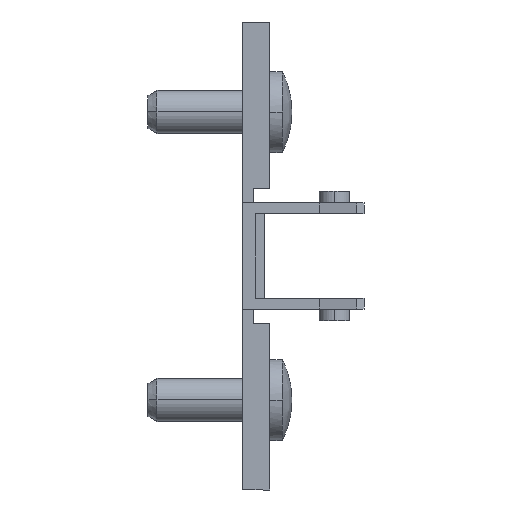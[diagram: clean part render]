
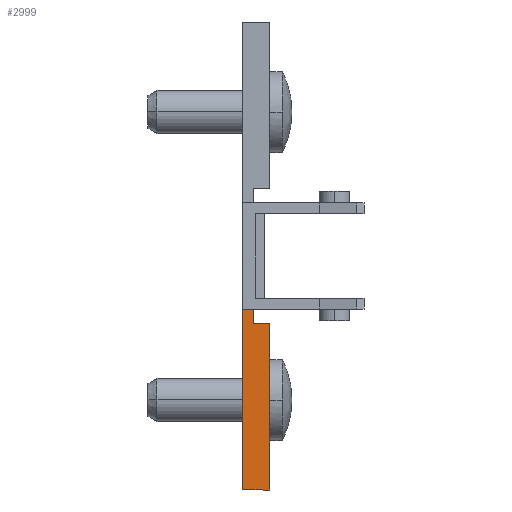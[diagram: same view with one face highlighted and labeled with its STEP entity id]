
A CAD part, front view. The second image highlights one B-rep face of the part: STEP entity #2999.
In plain terms, the highlighted planar face has unit normal (0, -1, 0).
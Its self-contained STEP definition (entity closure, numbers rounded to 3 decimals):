
#15 = LINE ( 'NONE', #2677, #947 ) ;
#17 = VECTOR ( 'NONE', #2600, 1000. ) ;
#18 = LINE ( 'NONE', #2598, #17 ) ;
#30 = VECTOR ( 'NONE', #814, 1000. ) ;
#31 = LINE ( 'NONE', #812, #30 ) ;
#212 = FACE_OUTER_BOUND ( 'NONE', #1516, .T. ) ;
#461 = LINE ( 'NONE', #1769, #468 ) ;
#468 = VECTOR ( 'NONE', #1761, 1000. ) ;
#570 = VECTOR ( 'NONE', #780, 1000. ) ;
#576 = LINE ( 'NONE', #777, #570 ) ;
#703 = CARTESIAN_POINT ( 'NONE',  ( 1.2, -9., -7.5 ) ) ;
#704 = VERTEX_POINT ( 'NONE', #703 ) ;
#777 = CARTESIAN_POINT ( 'NONE',  ( 1.2, -9., -7.5 ) ) ;
#780 = DIRECTION ( 'NONE',  ( -1., 0., 0. ) ) ;
#812 = CARTESIAN_POINT ( 'NONE',  ( 0., -9., -26. ) ) ;
#814 = DIRECTION ( 'NONE',  ( 0., 0., -1. ) ) ;
#872 = VECTOR ( 'NONE', #2805, 1000. ) ;
#873 = LINE ( 'NONE', #2807, #872 ) ;
#947 = VECTOR ( 'NONE', #2633, 1000. ) ;
#1193 = ORIENTED_EDGE ( 'NONE', *, *, #3331, .F. ) ;
#1194 = ORIENTED_EDGE ( 'NONE', *, *, #3186, .T. ) ;
#1195 = ORIENTED_EDGE ( 'NONE', *, *, #3212, .T. ) ;
#1196 = ORIENTED_EDGE ( 'NONE', *, *, #3246, .T. ) ;
#1197 = ORIENTED_EDGE ( 'NONE', *, *, #1606, .T. ) ;
#1198 = ORIENTED_EDGE ( 'NONE', *, *, #1654, .T. ) ;
#1516 = EDGE_LOOP ( 'NONE', ( #1193, #1194, #1195, #1196, #1197, #1198 ) ) ;
#1606 = EDGE_CURVE ( 'NONE', #2926, #704, #576, .T. ) ;
#1654 = EDGE_CURVE ( 'NONE', #704, #2897, #461, .T. ) ;
#1761 = DIRECTION ( 'NONE',  ( 0., 0., 1. ) ) ;
#1769 = CARTESIAN_POINT ( 'NONE',  ( 1.2, -9., -5. ) ) ;
#1956 = CARTESIAN_POINT ( 'NONE',  ( 3., -9., -26. ) ) ;
#2037 = CARTESIAN_POINT ( 'NONE',  ( 1.2, -9., -5.9 ) ) ;
#2043 = CARTESIAN_POINT ( 'NONE',  ( 0., -9., -5.9 ) ) ;
#2184 = CARTESIAN_POINT ( 'NONE',  ( 3., -9., -7.5 ) ) ;
#2185 = CARTESIAN_POINT ( 'NONE',  ( 0., -9., -26. ) ) ;
#2282 = DIRECTION ( 'NONE',  ( 0., 0., 1. ) ) ;
#2289 = DIRECTION ( 'NONE',  ( 0., 1., 0. ) ) ;
#2291 = CARTESIAN_POINT ( 'NONE',  ( 1.2, -9., -5. ) ) ;
#2296 = PLANE ( 'NONE',  #3162 ) ;
#2598 = CARTESIAN_POINT ( 'NONE',  ( 3., -9., -26. ) ) ;
#2600 = DIRECTION ( 'NONE',  ( 1., 0., 0. ) ) ;
#2614 = VERTEX_POINT ( 'NONE', #1956 ) ;
#2633 = DIRECTION ( 'NONE',  ( 0., 0., 1. ) ) ;
#2677 = CARTESIAN_POINT ( 'NONE',  ( 3., -9., -7.5 ) ) ;
#2805 = DIRECTION ( 'NONE',  ( 1., 0., 0. ) ) ;
#2807 = CARTESIAN_POINT ( 'NONE',  ( 1.2, -9., -5.9 ) ) ;
#2897 = VERTEX_POINT ( 'NONE', #2037 ) ;
#2914 = VERTEX_POINT ( 'NONE', #2043 ) ;
#2926 = VERTEX_POINT ( 'NONE', #2184 ) ;
#2927 = VERTEX_POINT ( 'NONE', #2185 ) ;
#2999 = ADVANCED_FACE ( 'NONE', ( #212 ), #2296, .F. ) ;
#3162 = AXIS2_PLACEMENT_3D ( 'NONE', #2291, #2289, #2282 ) ;
#3186 = EDGE_CURVE ( 'NONE', #2914, #2927, #31, .T. ) ;
#3212 = EDGE_CURVE ( 'NONE', #2927, #2614, #18, .T. ) ;
#3246 = EDGE_CURVE ( 'NONE', #2614, #2926, #15, .T. ) ;
#3331 = EDGE_CURVE ( 'NONE', #2914, #2897, #873, .T. ) ;
